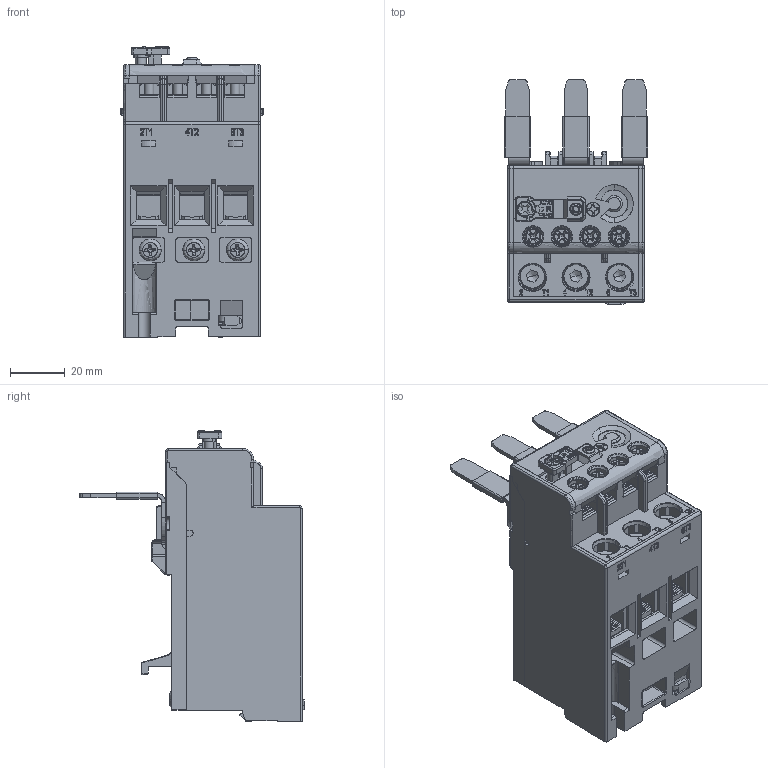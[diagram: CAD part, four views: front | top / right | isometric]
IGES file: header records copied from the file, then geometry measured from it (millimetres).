
Start section: SolidWorks IGES file using analytic representation for surfaces
Global section: file name: Q:\GROUPS\BR_SC_JGS_WA_TECNICO\ENG\Usuarios\Rodrigob\conversão\Reles de Sobrecarga\Produto\RW67-2D3\RW67-2D3.IGS; native system: SolidWorks 2014; preprocessor: SolidWorks 2014; author: rodrigob; date: 150410.081823; units: millimetre
Bounding box: 52.6 x 82.2 x 106.5 mm (x, y, z)
Surface area: 71360.4 mm2 (no closed solid volume)
Topology: 0 solids, 0 shells, 3446 faces, 30779 edges, 30743 vertices
Faces by surface type: bspline 2473, revolution 973
